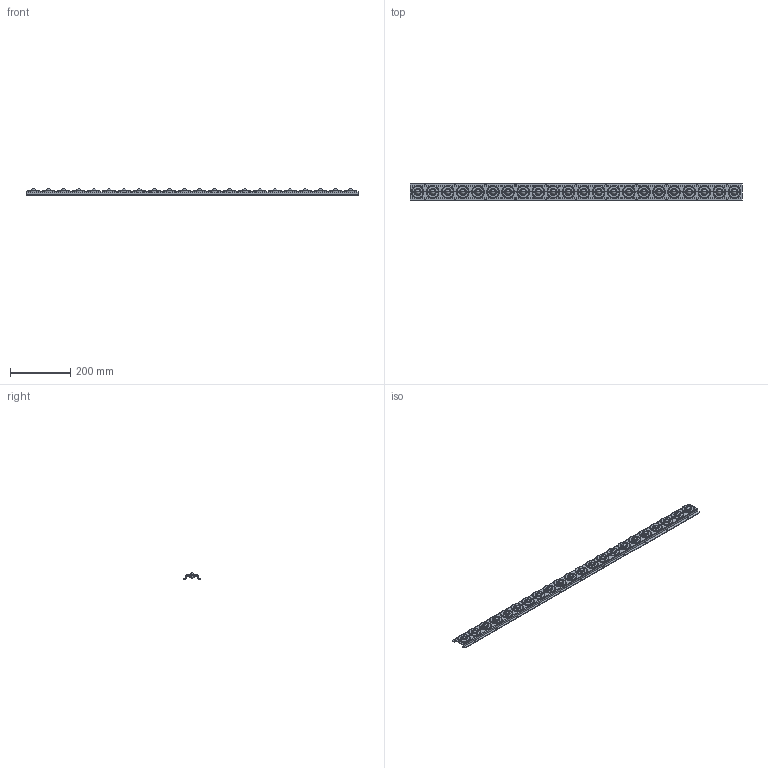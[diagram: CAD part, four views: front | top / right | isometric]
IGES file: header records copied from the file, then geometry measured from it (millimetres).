
Global section: file name: E:\UnigraphicsGraphicData\MISUMI_PRESS-PARTS\IGES\3d_goro-22_03807_r00.igs; native system: NX V5.0; preprocessor: UGS NX IGES V5.0; author: MISUMI; date: 20110105.160728; units: millimetre
Bounding box: 1100 x 59 x 21 mm (x, y, z)
Surface area: 192143.5 mm2 (no closed solid volume)
Topology: 0 solids, 0 shells, 552 faces, 4452 edges, 4364 vertices
Faces by surface type: bspline 552
